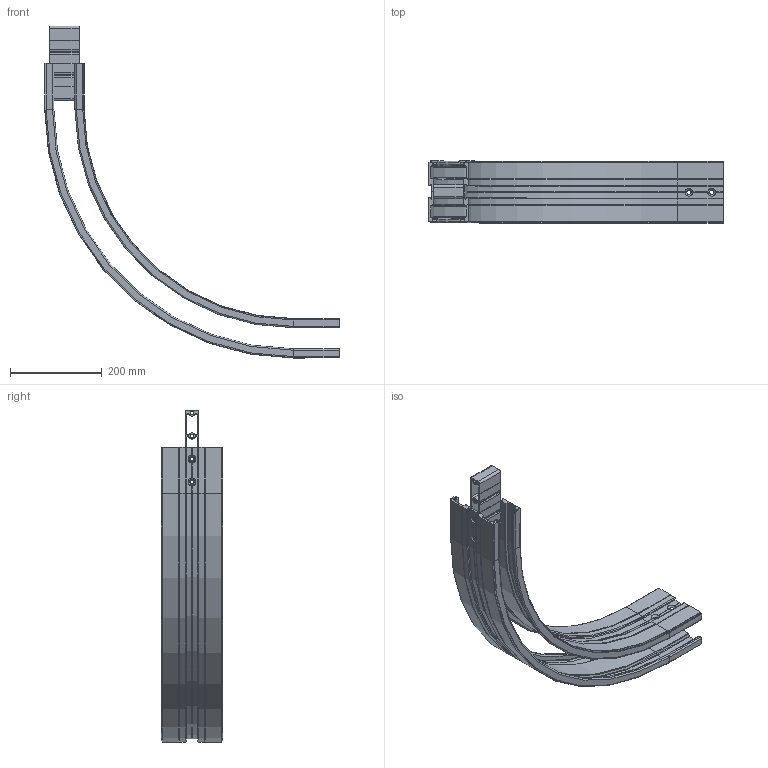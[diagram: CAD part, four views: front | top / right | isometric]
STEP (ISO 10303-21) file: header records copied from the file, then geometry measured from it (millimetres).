
FILE_DESCRIPTION (( 'STEP AP203' ), '1' );
FILE_NAME ('R2C500-90.STEP', '2008-12-02T09:28:34', ( 'faber' ), ( '' ), 'SwSTEP 2.0', 'SolidWorks 2008', '' );
FILE_SCHEMA (( 'CONFIG_CONTROL_DESIGN' ));
Length unit declared in the file: millimetre
Products named in the file (1): R2C500-90
Bounding box: 643 x 135 x 724.75 mm (x, y, z)
Surface area: 836628 mm2 (no closed solid volume)
Topology: 0 solids, 21 shells, 495 faces, 1717 edges, 1189 vertices
Faces by surface type: plane 230, cylinder 199, torus 38, cone 28
Entity records: 18393 total; most frequent: CARTESIAN_POINT 3498, DIRECTION 3278, ORIENTED_EDGE 2688, EDGE_CURVE 1717, VERTEX_POINT 1189, AXIS2_PLACEMENT_3D 1097, LINE 1084, VECTOR 1084
